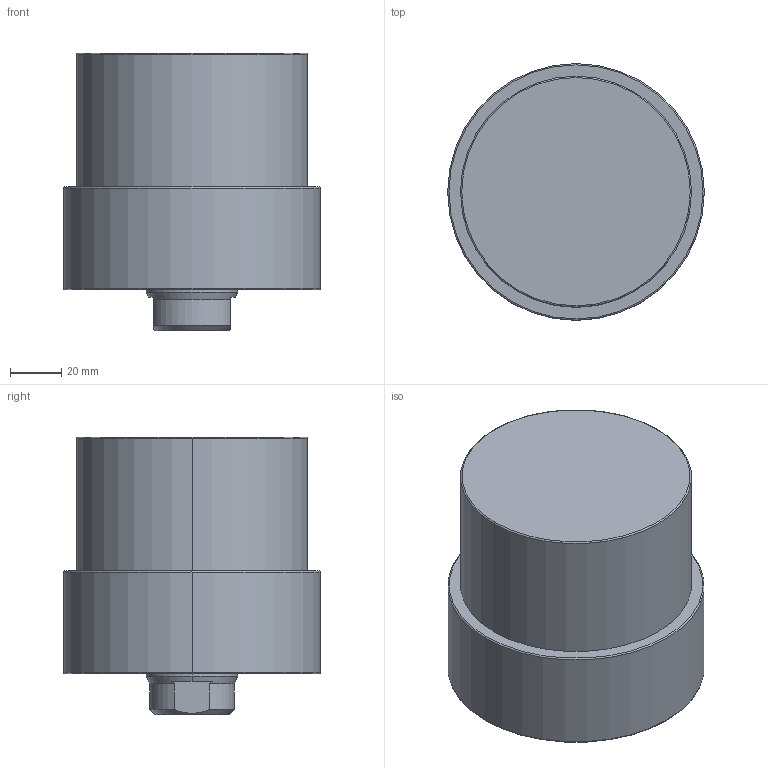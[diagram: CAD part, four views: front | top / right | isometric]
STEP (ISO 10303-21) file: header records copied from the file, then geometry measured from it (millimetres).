
FILE_DESCRIPTION (( 'STEP AP203' ), '1' );
FILE_NAME ('CLLU-090CA-030.STEP', '2020-01-11T00:30:39', ( '' ), ( '' ), 'SwSTEP 2.0', 'SolidWorks 2015', '' );
FILE_SCHEMA (( 'CONFIG_CONTROL_DESIGN' ));
Length unit declared in the file: millimetre
Products named in the file (1): CLLU-090CA-030
Bounding box: 100 x 100 x 108 mm (x, y, z)
Volume: 640518.5 mm3; surface area: 49552.1 mm2
Topology: 1 solids, 1 shells, 62 faces, 140 edges, 79 vertices
Faces by surface type: cone 24, cylinder 22, plane 10, torus 6
Entity records: 1767 total; most frequent: DIRECTION 320, CARTESIAN_POINT 316, ORIENTED_EDGE 260, AXIS2_PLACEMENT_3D 135, EDGE_CURVE 130, VERTEX_POINT 79, CIRCLE 72, EDGE_LOOP 71
